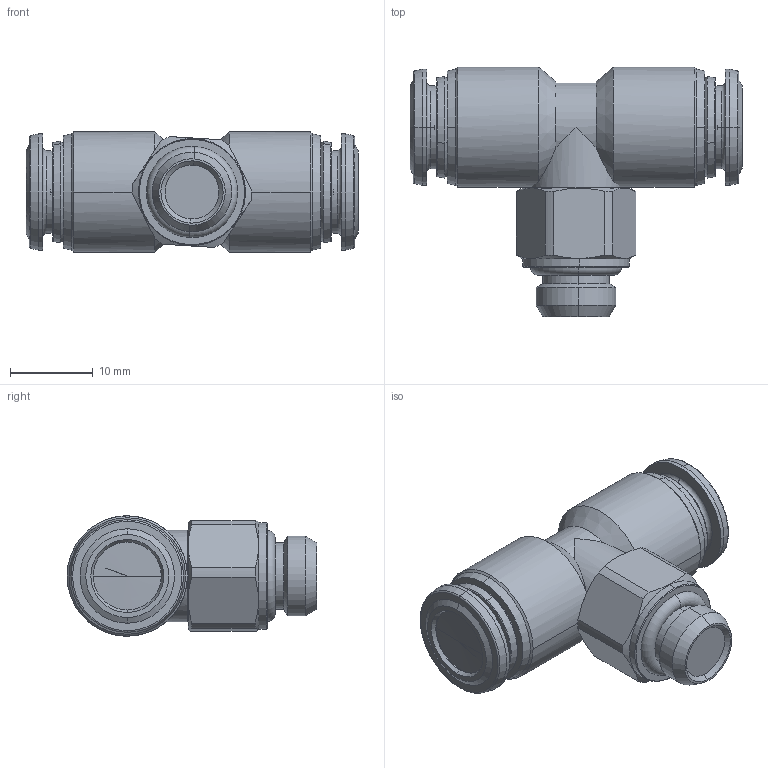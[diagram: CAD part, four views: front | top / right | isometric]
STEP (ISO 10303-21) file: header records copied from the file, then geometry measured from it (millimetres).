
FILE_DESCRIPTION (( 'STEP AP203' ), '1' );
FILE_NAME ('60215X0005.STEP', '2023-04-14T11:54:05', ( '' ), ( '' ), 'SwSTEP 2.0', 'SolidWorks 2020', '' );
FILE_SCHEMA (( 'CONFIG_CONTROL_DESIGN' ));
Length unit declared in the file: millimetre
Products named in the file (1): 60215X0005
Bounding box: 40 x 30.1 x 14.5 mm (x, y, z)
Volume: 7523.5 mm3; surface area: 3175.7 mm2
Topology: 1 solids, 3 shells, 170 faces, 422 edges, 263 vertices
Faces by surface type: plane 54, cone 53, cylinder 47, torus 16
Entity records: 5329 total; most frequent: CARTESIAN_POINT 1098, DIRECTION 934, ORIENTED_EDGE 840, EDGE_CURVE 420, AXIS2_PLACEMENT_3D 387, VERTEX_POINT 263, CIRCLE 216, EDGE_LOOP 193
